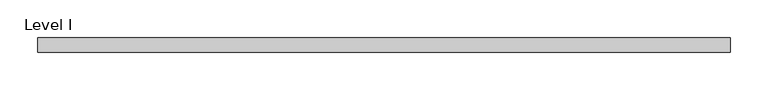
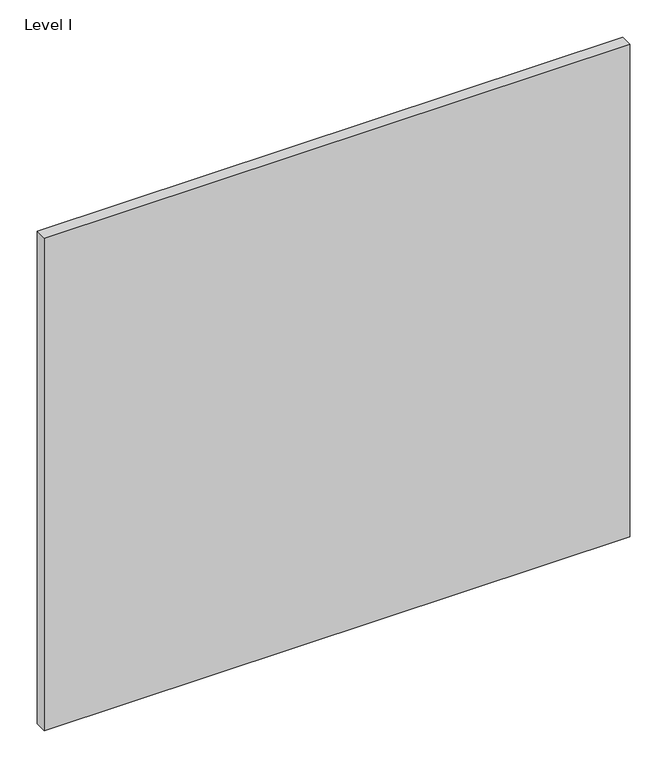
"""IFC4 building model written with IfcOpenShell, lengths in millimetres: proxy geometry, Panel-Fascia-Teknion-Altos-Standard : Level I."""

from ifc_helpers import new_model, si_unit, frame, origin, place, context, project, spatial, polyline, outline, extrude, source, transform, mapped, element, save


def level_i_0481ec7f(model_context):
    return source(origin(), model_context, "Body", "SweptSolid", [
        extrude(outline(polyline([(455.6125, 9.525), (455.6125, -9.525), (-455.6125, -9.525), (-455.6125, 9.525), (455.6125, 9.525)])), frame((0.0, 0.0, 3.175), z_axis=(0.0, 0.0, 1.0), x_axis=(1.0, 0.0, 0.0)), (0.0, 0.0, 1.0), 810.768),
    ])


if __name__ == "__main__":
    model = new_model("IFC4")
    model_context = context("Model", 3, world=origin())
    ifc_project = project(units=[si_unit("LENGTHUNIT", "METRE", prefix="MILLI")], contexts=[model_context])
    site = spatial("IfcSite", under=ifc_project)
    building = spatial("IfcBuilding", under=site)
    placement = place(None, origin())
    level_i_shape = level_i_0481ec7f(model_context)
    element("IfcBuildingElementProxy", 1, Name="Panel-Fascia-Teknion-Altos-Standard : Level I", ObjectType="Panel-Fascia-Teknion-Altos-Standard : Level I", at=placement, inside=building, context=model_context, shape_type="MappedRepresentation", body=[
        mapped(level_i_shape, transform((0.0, 0.0, 0.0), x_axis=(1.0, 0.0, 0.0), y_axis=(0.0, 1.0, 0.0), z_axis=(0.0, 0.0, 1.0))),
    ])
    save(model, "model.ifc")
